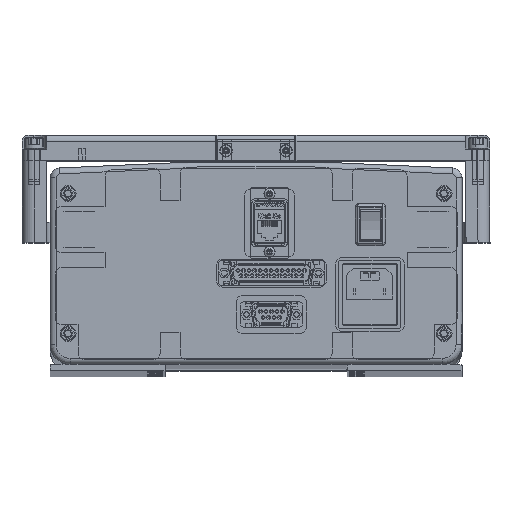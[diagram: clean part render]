
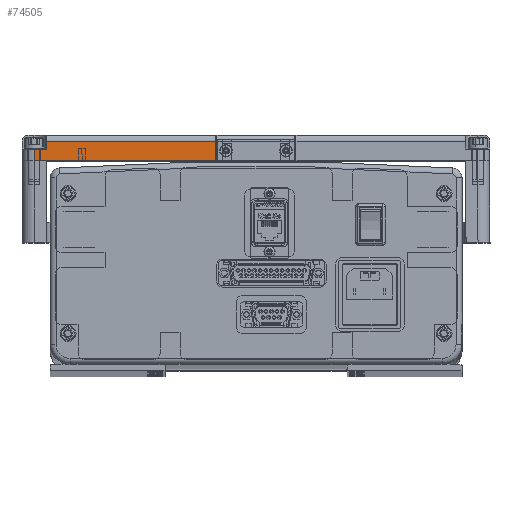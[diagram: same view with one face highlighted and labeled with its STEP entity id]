
A CAD part, top view. The second image highlights one B-rep face of the part: STEP entity #74505.
In plain terms, the highlighted planar face has unit normal (0, 0, 1).
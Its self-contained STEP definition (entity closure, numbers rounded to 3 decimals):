
#2180 = VECTOR ( 'NONE', #21168, 1000. ) ;
#3002 = VERTEX_POINT ( 'NONE', #64141 ) ;
#5040 = CARTESIAN_POINT ( 'NONE',  ( -111., 5.7, 117. ) ) ;
#6485 = LINE ( 'NONE', #7019, #2180 ) ;
#7019 = CARTESIAN_POINT ( 'NONE',  ( -111., 9.7, 117. ) ) ;
#12230 = ORIENTED_EDGE ( 'NONE', *, *, #152018, .T. ) ;
#15122 = DIRECTION ( 'NONE',  ( 0., 1., 0. ) ) ;
#16944 = CARTESIAN_POINT ( 'NONE',  ( -111., 12.7, 117. ) ) ;
#20909 = CARTESIAN_POINT ( 'NONE',  ( -111., 0., 117. ) ) ;
#21168 = DIRECTION ( 'NONE',  ( -1., 0., 0. ) ) ;
#26726 = VERTEX_POINT ( 'NONE', #162592 ) ;
#26943 = VECTOR ( 'NONE', #63256, 1000. ) ;
#31005 = DIRECTION ( 'NONE',  ( 0., -1., 0. ) ) ;
#35069 = LINE ( 'NONE', #155281, #67936 ) ;
#36211 = ORIENTED_EDGE ( 'NONE', *, *, #134347, .T. ) ;
#38028 = VECTOR ( 'NONE', #15122, 1000. ) ;
#43806 = EDGE_CURVE ( 'NONE', #158898, #26726, #6485, .T. ) ;
#48451 = FACE_OUTER_BOUND ( 'NONE', #56804, .T. ) ;
#52033 = EDGE_CURVE ( 'NONE', #3002, #26726, #79675, .T. ) ;
#53207 = CARTESIAN_POINT ( 'NONE',  ( -104.65, -12.015, 117. ) ) ;
#56804 = EDGE_LOOP ( 'NONE', ( #97561, #12230, #65227, #98265, #132443, #36211 ) ) ;
#62028 = CARTESIAN_POINT ( 'NONE',  ( -111., 12.7, 117. ) ) ;
#63090 = EDGE_CURVE ( 'NONE', #3002, #72707, #106436, .T. ) ;
#63256 = DIRECTION ( 'NONE',  ( 1., 0., 0. ) ) ;
#64141 = CARTESIAN_POINT ( 'NONE',  ( -104.65, 5.7, 117. ) ) ;
#65227 = ORIENTED_EDGE ( 'NONE', *, *, #43806, .T. ) ;
#66330 = EDGE_CURVE ( 'NONE', #152815, #111136, #143187, .T. ) ;
#67936 = VECTOR ( 'NONE', #85477, 1000. ) ;
#72707 = VERTEX_POINT ( 'NONE', #5040 ) ;
#74505 = ADVANCED_FACE ( 'NONE', ( #48451 ), #117129, .F. ) ;
#76063 = DIRECTION ( 'NONE',  ( -1., 0., 0. ) ) ;
#79675 = LINE ( 'NONE', #53207, #38028 ) ;
#85477 = DIRECTION ( 'NONE',  ( 0., 1., 0. ) ) ;
#88169 = LINE ( 'NONE', #16944, #158239 ) ;
#97561 = ORIENTED_EDGE ( 'NONE', *, *, #66330, .T. ) ;
#98265 = ORIENTED_EDGE ( 'NONE', *, *, #52033, .F. ) ;
#106436 = LINE ( 'NONE', #126289, #176498 ) ;
#111136 = VERTEX_POINT ( 'NONE', #153527 ) ;
#112177 = DIRECTION ( 'NONE',  ( -1., 0., 0. ) ) ;
#117129 = PLANE ( 'NONE',  #164146 ) ;
#121960 = CARTESIAN_POINT ( 'NONE',  ( -111., 0., 117. ) ) ;
#126289 = CARTESIAN_POINT ( 'NONE',  ( -111., 5.7, 117. ) ) ;
#132443 = ORIENTED_EDGE ( 'NONE', *, *, #63090, .T. ) ;
#134347 = EDGE_CURVE ( 'NONE', #72707, #152815, #88169, .T. ) ;
#143187 = LINE ( 'NONE', #20909, #26943 ) ;
#146948 = CARTESIAN_POINT ( 'NONE',  ( -20., 9.7, 117. ) ) ;
#152018 = EDGE_CURVE ( 'NONE', #111136, #158898, #35069, .T. ) ;
#152815 = VERTEX_POINT ( 'NONE', #121960 ) ;
#153527 = CARTESIAN_POINT ( 'NONE',  ( -20., 0., 117. ) ) ;
#155281 = CARTESIAN_POINT ( 'NONE',  ( -20., 0., 117. ) ) ;
#158239 = VECTOR ( 'NONE', #31005, 1000. ) ;
#158898 = VERTEX_POINT ( 'NONE', #146948 ) ;
#159994 = DIRECTION ( 'NONE',  ( 0., 0., -1. ) ) ;
#162592 = CARTESIAN_POINT ( 'NONE',  ( -104.65, 9.7, 117. ) ) ;
#164146 = AXIS2_PLACEMENT_3D ( 'NONE', #62028, #159994, #76063 ) ;
#176498 = VECTOR ( 'NONE', #112177, 1000. ) ;
